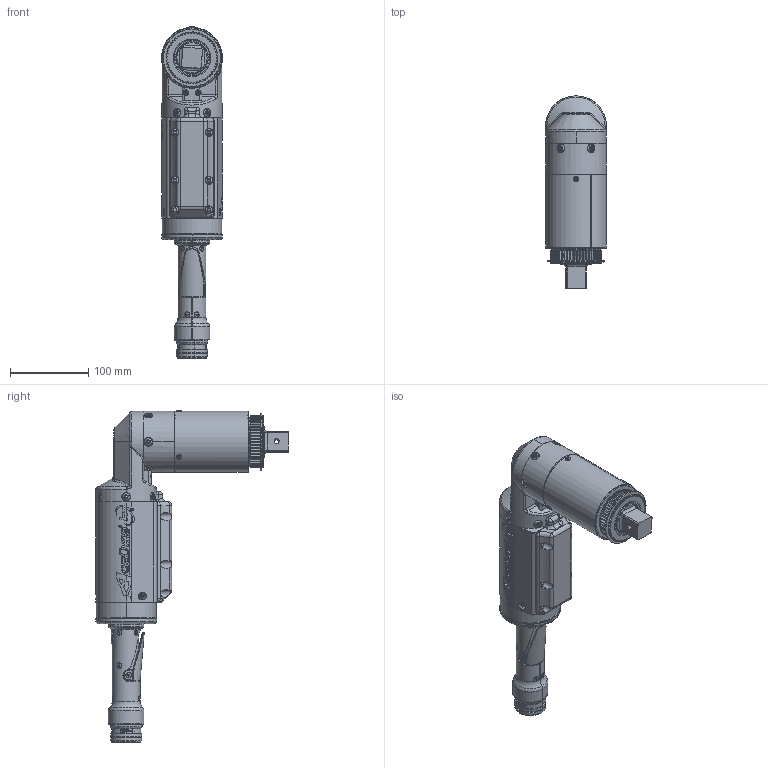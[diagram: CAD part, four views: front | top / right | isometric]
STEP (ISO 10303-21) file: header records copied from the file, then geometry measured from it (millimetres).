
FILE_DESCRIPTION (( 'STEP AP214' ), '1' );
FILE_NAME ('AEN4B771200B.STEP', '2021-07-16T18:19:36', ( '' ), ( '' ), 'SwSTEP 2.0', 'SolidWorks 2021', '' );
FILE_SCHEMA (( 'AUTOMOTIVE_DESIGN' ));
Length unit declared in the file: inch
Products named in the file (1): AEN4B771200B
Bounding box: 77.47 x 245.38 x 423.46 mm (x, y, z)
Surface area: 205489.5 mm2 (no closed solid volume)
Topology: 0 solids, 121 shells, 1475 faces, 5649 edges, 4051 vertices
Faces by surface type: cylinder 503, plane 375, bspline 210, cone 190, torus 185, sphere 12
Entity records: 138798 total; most frequent: CARTESIAN_POINT 76828, ORIENTED_EDGE 8566, DIRECTION 7945, EDGE_CURVE 5643, VERTEX_POINT 4051, AXIS2_PLACEMENT_3D 3042, VECTOR 1861, LINE 1861
